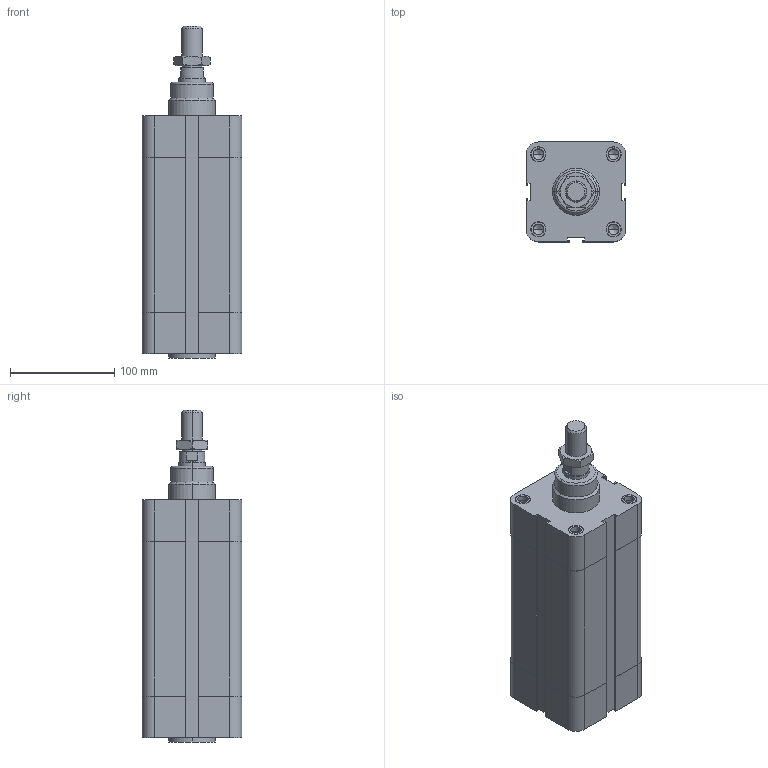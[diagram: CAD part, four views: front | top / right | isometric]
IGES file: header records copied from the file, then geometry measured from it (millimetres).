
Global section: file name: No Iges File Name specified; native system: AutoDesk Inventor R6.1; preprocessor: AutoDesk Inventor Iges Exporter R6.1; author: No Author specified; organization: No Organization specified; date: 20040107.171135; units: millimetre
Bounding box: 95.5 x 95.5 x 318 mm (x, y, z)
Volume: 2054451.3 mm3; surface area: 154955 mm2
Topology: 3 solids, 3 shells, 244 faces, 570 edges, 356 vertices
Faces by surface type: plane 83, bspline 67, cylinder 34, revolution 34, cone 24, torus 2
